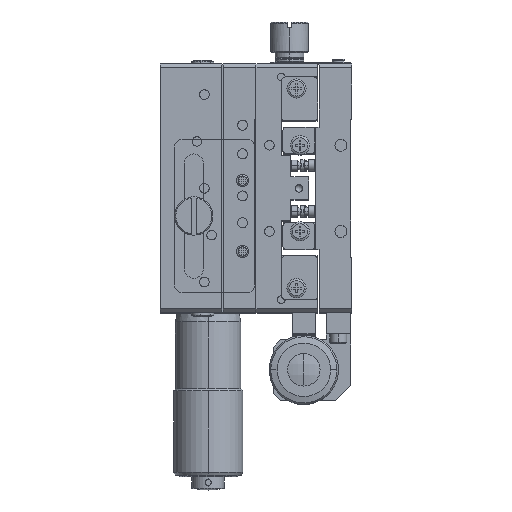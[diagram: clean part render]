
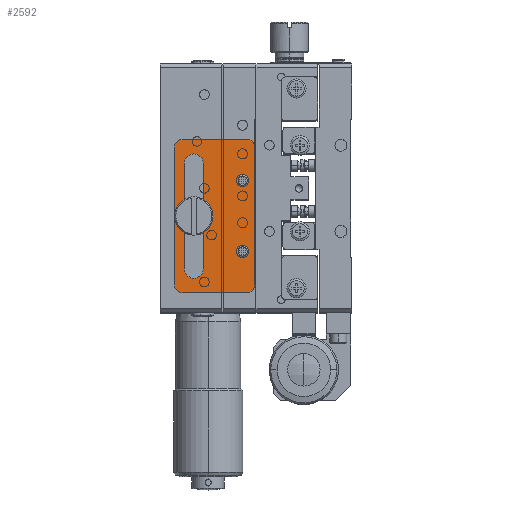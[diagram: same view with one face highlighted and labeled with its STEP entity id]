
A CAD part, top view. The second image highlights one B-rep face of the part: STEP entity #2592.
In plain terms, the highlighted planar face has unit normal (0, 0, 1).
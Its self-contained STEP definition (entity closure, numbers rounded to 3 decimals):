
#124 = CARTESIAN_POINT ( 'NONE',  ( -18.75, 63.05, -45.75 ) ) ;
#508 = DIRECTION ( 'NONE',  ( 0., 0., 1. ) ) ;
#702 = FACE_BOUND ( 'NONE', #26711, .T. ) ;
#751 = VERTEX_POINT ( 'NONE', #51544 ) ;
#2403 = CARTESIAN_POINT ( 'NONE',  ( -3.5, 58.55, -45.75 ) ) ;
#2592 = ADVANCED_FACE ( 'NONE', ( #702, #41405, #79690, #59355 ), #19984, .F. ) ;
#3527 = EDGE_CURVE ( 'NONE', #97568, #14472, #45215, .T. ) ;
#4582 = CARTESIAN_POINT ( 'NONE',  ( -5., 40.05, -45.75 ) ) ;
#5421 = CARTESIAN_POINT ( 'NONE',  ( -2., 40.05, -45.75 ) ) ;
#6123 = AXIS2_PLACEMENT_3D ( 'NONE', #27288, #80842, #34960 ) ;
#6231 = LINE ( 'NONE', #11873, #26561 ) ;
#6413 = CIRCLE ( 'NONE', #64033, 2.5 ) ;
#7374 = VERTEX_POINT ( 'NONE', #5421 ) ;
#7565 = CIRCLE ( 'NONE', #16560, 2. ) ;
#7847 = EDGE_CURVE ( 'NONE', #82156, #60586, #6413, .T. ) ;
#8396 = CARTESIAN_POINT ( 'NONE',  ( -18.75, 49.3, -45.75 ) ) ;
#8724 = CARTESIAN_POINT ( 'NONE',  ( -13.75, 35.55, -45.75 ) ) ;
#9804 = CIRCLE ( 'NONE', #6123, 2.5 ) ;
#10068 = DIRECTION ( 'NONE',  ( -1., 0., 0. ) ) ;
#10155 = CARTESIAN_POINT ( 'NONE',  ( -0.3, 31.3, -45.75 ) ) ;
#11873 = CARTESIAN_POINT ( 'NONE',  ( -10.8, 29.3, -45.75 ) ) ;
#12399 = CIRCLE ( 'NONE', #31683, 1.5 ) ;
#12614 = CARTESIAN_POINT ( 'NONE',  ( -21.72, 28.5, -45.75 ) ) ;
#13067 = EDGE_CURVE ( 'NONE', #95636, #74866, #18985, .T. ) ;
#13134 = CARTESIAN_POINT ( 'NONE',  ( -13.75, 63.05, -45.75 ) ) ;
#14472 = VERTEX_POINT ( 'NONE', #25252 ) ;
#14561 = EDGE_CURVE ( 'NONE', #14472, #97568, #12399, .T. ) ;
#15114 = VERTEX_POINT ( 'NONE', #56917 ) ;
#15312 = CARTESIAN_POINT ( 'NONE',  ( -19.3, 31.3, -45.75 ) ) ;
#16190 = DIRECTION ( 'NONE',  ( 0., -1., 0. ) ) ;
#16462 = VERTEX_POINT ( 'NONE', #124 ) ;
#16560 = AXIS2_PLACEMENT_3D ( 'NONE', #83571, #37694, #91236 ) ;
#17846 = CIRCLE ( 'NONE', #37544, 2. ) ;
#18882 = VERTEX_POINT ( 'NONE', #29981 ) ;
#18985 = LINE ( 'NONE', #31569, #36901 ) ;
#19429 = DIRECTION ( 'NONE',  ( 0., 0., 1. ) ) ;
#19647 = EDGE_CURVE ( 'NONE', #80325, #7374, #81415, .T. ) ;
#19811 = EDGE_CURVE ( 'NONE', #70246, #15114, #17846, .T. ) ;
#19984 = PLANE ( 'NONE',  #95903 ) ;
#20013 = DIRECTION ( 'NONE',  ( 0., 0., 1. ) ) ;
#20307 = DIRECTION ( 'NONE',  ( 0., 1., 0. ) ) ;
#20966 = CARTESIAN_POINT ( 'NONE',  ( -18.75, 35.55, -45.75 ) ) ;
#21218 = VECTOR ( 'NONE', #77293, 1000. ) ;
#23009 = DIRECTION ( 'NONE',  ( -1., 0., 0. ) ) ;
#23637 = VECTOR ( 'NONE', #97162, 1000. ) ;
#25252 = CARTESIAN_POINT ( 'NONE',  ( -2., 58.55, -45.75 ) ) ;
#26561 = VECTOR ( 'NONE', #57675, 1000. ) ;
#26665 = ORIENTED_EDGE ( 'NONE', *, *, #19811, .F. ) ;
#26690 = CIRCLE ( 'NONE', #36876, 2. ) ;
#26711 = EDGE_LOOP ( 'NONE', ( #44790, #75656, #68624, #36703 ) ) ;
#27288 = CARTESIAN_POINT ( 'NONE',  ( -16.25, 63.05, -45.75 ) ) ;
#28163 = EDGE_CURVE ( 'NONE', #16462, #82156, #44015, .T. ) ;
#29503 = CARTESIAN_POINT ( 'NONE',  ( -10.8, 69.3, -45.75 ) ) ;
#29981 = CARTESIAN_POINT ( 'NONE',  ( -19.3, 29.3, -45.75 ) ) ;
#30587 = VERTEX_POINT ( 'NONE', #13134 ) ;
#31569 = CARTESIAN_POINT ( 'NONE',  ( -0.3, 49.3, -45.75 ) ) ;
#31683 = AXIS2_PLACEMENT_3D ( 'NONE', #88130, #42325, #95803 ) ;
#33950 = EDGE_LOOP ( 'NONE', ( #77151, #65599 ) ) ;
#34024 = CARTESIAN_POINT ( 'NONE',  ( -2.3, 67.3, -45.75 ) ) ;
#34960 = DIRECTION ( 'NONE',  ( -1., 0., 0. ) ) ;
#36703 = ORIENTED_EDGE ( 'NONE', *, *, #95281, .F. ) ;
#36876 = AXIS2_PLACEMENT_3D ( 'NONE', #15312, #68872, #23009 ) ;
#36901 = VECTOR ( 'NONE', #16190, 1000. ) ;
#37544 = AXIS2_PLACEMENT_3D ( 'NONE', #90942, #45180, #98639 ) ;
#37556 = ORIENTED_EDGE ( 'NONE', *, *, #13067, .F. ) ;
#37694 = DIRECTION ( 'NONE',  ( 0., 0., -1. ) ) ;
#37846 = VECTOR ( 'NONE', #90354, 1000. ) ;
#39694 = EDGE_CURVE ( 'NONE', #30587, #16462, #9804, .T. ) ;
#39864 = ORIENTED_EDGE ( 'NONE', *, *, #93549, .F. ) ;
#40018 = ORIENTED_EDGE ( 'NONE', *, *, #14561, .F. ) ;
#40642 = LINE ( 'NONE', #52624, #99257 ) ;
#41113 = ORIENTED_EDGE ( 'NONE', *, *, #3527, .F. ) ;
#41405 = FACE_BOUND ( 'NONE', #80705, .T. ) ;
#41743 = DIRECTION ( 'NONE',  ( -1., 0., 0. ) ) ;
#42325 = DIRECTION ( 'NONE',  ( 0., 0., 1. ) ) ;
#42693 = ORIENTED_EDGE ( 'NONE', *, *, #70763, .F. ) ;
#43695 = CARTESIAN_POINT ( 'NONE',  ( -13.75, 49.3, -45.75 ) ) ;
#43937 = EDGE_CURVE ( 'NONE', #45033, #95636, #59929, .T. ) ;
#44015 = LINE ( 'NONE', #8396, #21218 ) ;
#44790 = ORIENTED_EDGE ( 'NONE', *, *, #7847, .F. ) ;
#45033 = VERTEX_POINT ( 'NONE', #78288 ) ;
#45180 = DIRECTION ( 'NONE',  ( 0., 0., -1. ) ) ;
#45215 = CIRCLE ( 'NONE', #77440, 1.5 ) ;
#46357 = CARTESIAN_POINT ( 'NONE',  ( -3.5, 40.05, -45.75 ) ) ;
#46809 = CIRCLE ( 'NONE', #65224, 1.5 ) ;
#51498 = EDGE_CURVE ( 'NONE', #751, #70246, #40642, .T. ) ;
#51544 = CARTESIAN_POINT ( 'NONE',  ( -21.3, 31.3, -45.75 ) ) ;
#52624 = CARTESIAN_POINT ( 'NONE',  ( -21.3, 49.3, -45.75 ) ) ;
#53175 = CARTESIAN_POINT ( 'NONE',  ( -0.3, 67.3, -45.75 ) ) ;
#54053 = DIRECTION ( 'NONE',  ( -1., 0., 0. ) ) ;
#55915 = DIRECTION ( 'NONE',  ( 0., 0., 1. ) ) ;
#56917 = CARTESIAN_POINT ( 'NONE',  ( -19.3, 69.3, -45.75 ) ) ;
#57591 = ORIENTED_EDGE ( 'NONE', *, *, #65090, .F. ) ;
#57675 = DIRECTION ( 'NONE',  ( -1., 0., 0. ) ) ;
#58561 = AXIS2_PLACEMENT_3D ( 'NONE', #34024, #87530, #41743 ) ;
#59355 = FACE_OUTER_BOUND ( 'NONE', #79322, .T. ) ;
#59929 = CIRCLE ( 'NONE', #58561, 2. ) ;
#60586 = VERTEX_POINT ( 'NONE', #8724 ) ;
#60741 = ORIENTED_EDGE ( 'NONE', *, *, #51498, .F. ) ;
#64033 = AXIS2_PLACEMENT_3D ( 'NONE', #65854, #20013, #73541 ) ;
#64066 = ORIENTED_EDGE ( 'NONE', *, *, #43937, .F. ) ;
#65090 = EDGE_CURVE ( 'NONE', #74866, #98667, #7565, .T. ) ;
#65224 = AXIS2_PLACEMENT_3D ( 'NONE', #46357, #508, #54053 ) ;
#65286 = CARTESIAN_POINT ( 'NONE',  ( -3.5, 40.05, -45.75 ) ) ;
#65599 = ORIENTED_EDGE ( 'NONE', *, *, #87399, .F. ) ;
#65854 = CARTESIAN_POINT ( 'NONE',  ( -16.25, 35.55, -45.75 ) ) ;
#66155 = DIRECTION ( 'NONE',  ( 0., 0., -1. ) ) ;
#68624 = ORIENTED_EDGE ( 'NONE', *, *, #39694, .F. ) ;
#68872 = DIRECTION ( 'NONE',  ( 0., 0., -1. ) ) ;
#70246 = VERTEX_POINT ( 'NONE', #76115 ) ;
#70763 = EDGE_CURVE ( 'NONE', #15114, #45033, #96512, .T. ) ;
#72939 = DIRECTION ( 'NONE',  ( -1., 0., 0. ) ) ;
#73541 = DIRECTION ( 'NONE',  ( -1., 0., 0. ) ) ;
#74866 = VERTEX_POINT ( 'NONE', #10155 ) ;
#75656 = ORIENTED_EDGE ( 'NONE', *, *, #28163, .F. ) ;
#76028 = DIRECTION ( 'NONE',  ( 0., 1., 0. ) ) ;
#76115 = CARTESIAN_POINT ( 'NONE',  ( -21.3, 67.3, -45.75 ) ) ;
#77151 = ORIENTED_EDGE ( 'NONE', *, *, #19647, .F. ) ;
#77293 = DIRECTION ( 'NONE',  ( 0., -1., 0. ) ) ;
#77440 = AXIS2_PLACEMENT_3D ( 'NONE', #2403, #55915, #10068 ) ;
#77479 = CARTESIAN_POINT ( 'NONE',  ( -5., 58.55, -45.75 ) ) ;
#78288 = CARTESIAN_POINT ( 'NONE',  ( -2.3, 69.3, -45.75 ) ) ;
#79322 = EDGE_LOOP ( 'NONE', ( #64066, #42693, #26665, #60741, #86668, #39864, #57591, #37556 ) ) ;
#79690 = FACE_BOUND ( 'NONE', #33950, .T. ) ;
#80325 = VERTEX_POINT ( 'NONE', #4582 ) ;
#80705 = EDGE_LOOP ( 'NONE', ( #41113, #40018 ) ) ;
#80842 = DIRECTION ( 'NONE',  ( 0., 0., 1. ) ) ;
#81415 = CIRCLE ( 'NONE', #87498, 1.5 ) ;
#82156 = VERTEX_POINT ( 'NONE', #20966 ) ;
#83256 = CARTESIAN_POINT ( 'NONE',  ( -2.3, 29.3, -45.75 ) ) ;
#83571 = CARTESIAN_POINT ( 'NONE',  ( -2.3, 31.3, -45.75 ) ) ;
#84715 = LINE ( 'NONE', #43695, #23637 ) ;
#86668 = ORIENTED_EDGE ( 'NONE', *, *, #86795, .F. ) ;
#86795 = EDGE_CURVE ( 'NONE', #18882, #751, #26690, .T. ) ;
#87399 = EDGE_CURVE ( 'NONE', #7374, #80325, #46809, .T. ) ;
#87498 = AXIS2_PLACEMENT_3D ( 'NONE', #65286, #19429, #72939 ) ;
#87530 = DIRECTION ( 'NONE',  ( 0., 0., -1. ) ) ;
#88130 = CARTESIAN_POINT ( 'NONE',  ( -3.5, 58.55, -45.75 ) ) ;
#90354 = DIRECTION ( 'NONE',  ( 1., 0., 0. ) ) ;
#90942 = CARTESIAN_POINT ( 'NONE',  ( -19.3, 67.3, -45.75 ) ) ;
#91236 = DIRECTION ( 'NONE',  ( -1., 0., 0. ) ) ;
#93549 = EDGE_CURVE ( 'NONE', #98667, #18882, #6231, .T. ) ;
#95281 = EDGE_CURVE ( 'NONE', #60586, #30587, #84715, .T. ) ;
#95636 = VERTEX_POINT ( 'NONE', #53175 ) ;
#95803 = DIRECTION ( 'NONE',  ( -1., 0., 0. ) ) ;
#95903 = AXIS2_PLACEMENT_3D ( 'NONE', #12614, #66155, #20307 ) ;
#96512 = LINE ( 'NONE', #29503, #37846 ) ;
#97162 = DIRECTION ( 'NONE',  ( 0., 1., 0. ) ) ;
#97568 = VERTEX_POINT ( 'NONE', #77479 ) ;
#98639 = DIRECTION ( 'NONE',  ( -1., 0., 0. ) ) ;
#98667 = VERTEX_POINT ( 'NONE', #83256 ) ;
#99257 = VECTOR ( 'NONE', #76028, 1000. ) ;
